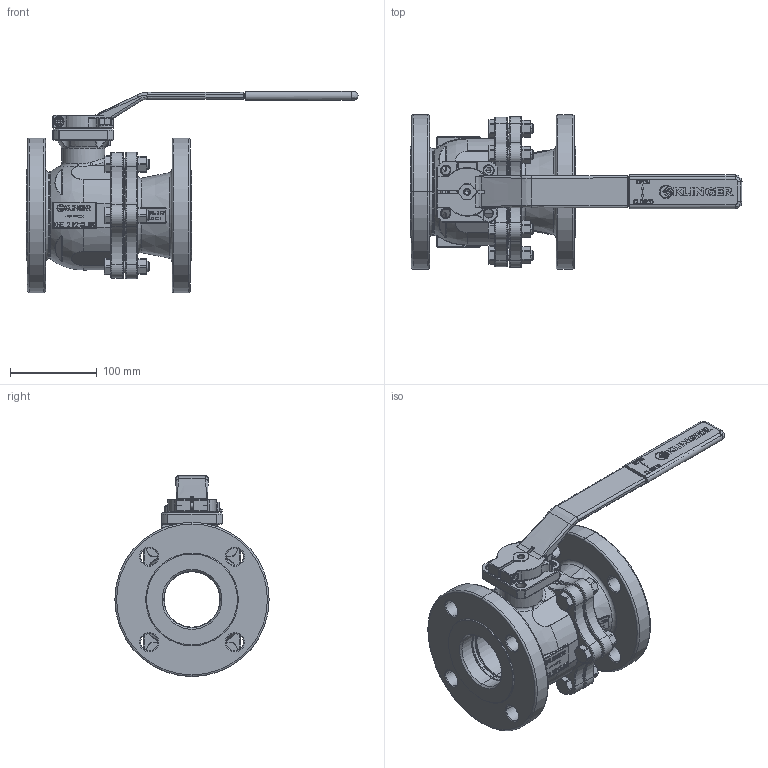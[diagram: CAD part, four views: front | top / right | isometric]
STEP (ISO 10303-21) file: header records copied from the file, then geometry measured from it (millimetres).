
FILE_DESCRIPTION((''),'2;1');
FILE_NAME('KHEFS-52VFS-52C150PKK','2015-08-10T',('mahrhauserh'),('RAND'),'PRO/ENGINEER BY PARAMETRIC TECHNOLOGY CORPORATION, 2013410','PRO/ENGINEER BY PARAMETRIC TECHNOLOGY CORPORATION, 2013410','');
FILE_SCHEMA(('CONFIG_CONTROL_DESIGN'));
Products named in the file (1): KHEFS-52VFS-52C150PKK
Bounding box: 383 x 178 x 232.05 mm (x, y, z)
Volume: 2177460.3 mm3; surface area: 409331.1 mm2
Topology: 1 solids, 1 shells, 3474 faces, 8983 edges, 5655 vertices
Faces by surface type: plane 1978, cylinder 551, torus 365, bspline 290, cone 259, sphere 31
Entity records: 135255 total; most frequent: CARTESIAN_POINT 51580, ORIENTED_EDGE 17954, DIRECTION 16751, EDGE_CURVE 8977, VECTOR 5767, LINE 5767, VERTEX_POINT 5655, AXIS2_PLACEMENT_3D 5492
